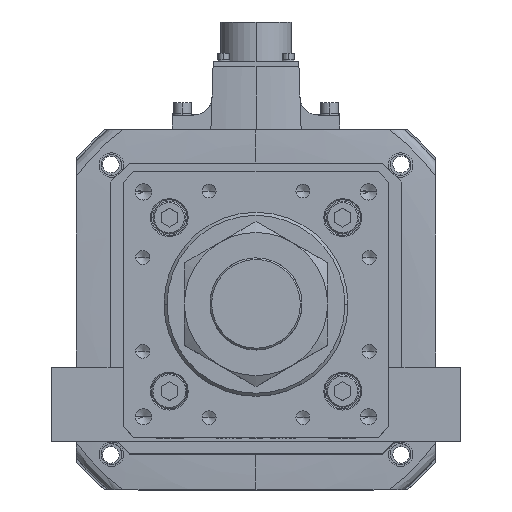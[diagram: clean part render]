
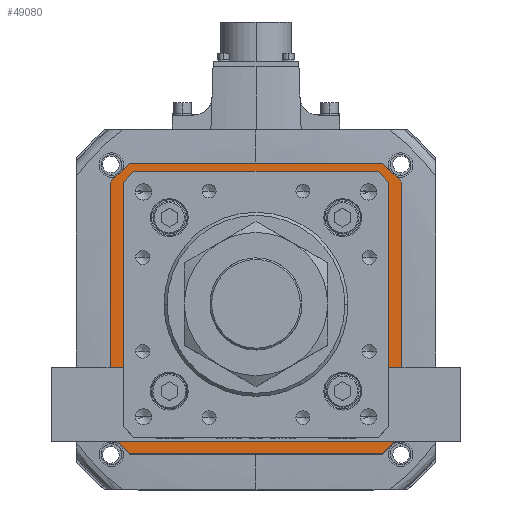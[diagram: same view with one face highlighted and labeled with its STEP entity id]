
A CAD part, top view. The second image highlights one B-rep face of the part: STEP entity #49080.
In plain terms, the highlighted planar face has unit normal (0, 0, 1).
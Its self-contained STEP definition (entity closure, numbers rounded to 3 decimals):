
#399 = ORIENTED_EDGE ( 'NONE', *, *, #52151, .F. ) ;
#441 = ORIENTED_EDGE ( 'NONE', *, *, #50509, .T. ) ;
#1129 = CARTESIAN_POINT ( 'NONE',  ( -58.793, 63., -142. ) ) ;
#1632 = DIRECTION ( 'NONE',  ( 0., 0., 1. ) ) ;
#2033 = VERTEX_POINT ( 'NONE', #29600 ) ;
#2128 = LINE ( 'NONE', #10579, #12241 ) ;
#2156 = LINE ( 'NONE', #35237, #21768 ) ;
#2441 = ORIENTED_EDGE ( 'NONE', *, *, #50747, .T. ) ;
#2738 = ORIENTED_EDGE ( 'NONE', *, *, #39676, .F. ) ;
#3299 = EDGE_CURVE ( 'NONE', #49667, #34025, #11095, .T. ) ;
#3880 = DIRECTION ( 'NONE',  ( 0., 1., 0. ) ) ;
#5049 = VERTEX_POINT ( 'NONE', #20598 ) ;
#5574 = AXIS2_PLACEMENT_3D ( 'NONE', #9741, #1632, #36352 ) ;
#5594 = CARTESIAN_POINT ( 'NONE',  ( -60.896, -60.896, -142. ) ) ;
#5709 = VERTEX_POINT ( 'NONE', #31580 ) ;
#5915 = VECTOR ( 'NONE', #53920, 1000. ) ;
#6136 = VECTOR ( 'NONE', #27582, 1000. ) ;
#6309 = CARTESIAN_POINT ( 'NONE',  ( 71., 62., -142. ) ) ;
#6768 = EDGE_CURVE ( 'NONE', #23154, #38619, #31103, .T. ) ;
#7073 = LINE ( 'NONE', #51189, #19955 ) ;
#7908 = ORIENTED_EDGE ( 'NONE', *, *, #41142, .F. ) ;
#7915 = LINE ( 'NONE', #19829, #5915 ) ;
#8337 = CARTESIAN_POINT ( 'NONE',  ( 71., 62., -142. ) ) ;
#9741 = CARTESIAN_POINT ( 'NONE',  ( 0., 0., -142. ) ) ;
#10463 = LINE ( 'NONE', #8337, #54385 ) ;
#10579 = CARTESIAN_POINT ( 'NONE',  ( -71., 62., -142. ) ) ;
#10681 = EDGE_LOOP ( 'NONE', ( #13502, #25065, #16151, #2441, #441, #50598, #50806, #35768 ) ) ;
#11095 = LINE ( 'NONE', #38594, #36066 ) ;
#11386 = CARTESIAN_POINT ( 'NONE',  ( 58.793, -63., -142. ) ) ;
#11911 = LINE ( 'NONE', #34791, #49077 ) ;
#12241 = VECTOR ( 'NONE', #43693, 1000. ) ;
#12267 = LINE ( 'NONE', #5594, #34570 ) ;
#12298 = VECTOR ( 'NONE', #42231, 1000. ) ;
#13502 = ORIENTED_EDGE ( 'NONE', *, *, #55547, .T. ) ;
#13518 = VECTOR ( 'NONE', #14341, 1000. ) ;
#13959 = CARTESIAN_POINT ( 'NONE',  ( 62., 71., -142. ) ) ;
#14341 = DIRECTION ( 'NONE',  ( 1., 0., 0. ) ) ;
#15019 = CARTESIAN_POINT ( 'NONE',  ( -71., -62., -142. ) ) ;
#15392 = DIRECTION ( 'NONE',  ( 0., -1., 0. ) ) ;
#16151 = ORIENTED_EDGE ( 'NONE', *, *, #37936, .T. ) ;
#16581 = EDGE_CURVE ( 'NONE', #40770, #2033, #2128, .T. ) ;
#17220 = CARTESIAN_POINT ( 'NONE',  ( -63., 58.793, -142. ) ) ;
#17630 = DIRECTION ( 'NONE',  ( 0., -1., 0. ) ) ;
#19829 = CARTESIAN_POINT ( 'NONE',  ( 0., -63., -142. ) ) ;
#19955 = VECTOR ( 'NONE', #25382, 1000. ) ;
#20350 = VECTOR ( 'NONE', #15392, 1000. ) ;
#20598 = CARTESIAN_POINT ( 'NONE',  ( -58.793, -63., -142. ) ) ;
#20993 = CARTESIAN_POINT ( 'NONE',  ( 71., -62., -142. ) ) ;
#21173 = DIRECTION ( 'NONE',  ( -1., 0., 0. ) ) ;
#21555 = CARTESIAN_POINT ( 'NONE',  ( 62., -71., -142. ) ) ;
#21569 = LINE ( 'NONE', #46140, #27635 ) ;
#21768 = VECTOR ( 'NONE', #3880, 1000. ) ;
#21834 = EDGE_CURVE ( 'NONE', #39666, #52263, #34577, .T. ) ;
#22433 = ORIENTED_EDGE ( 'NONE', *, *, #6768, .F. ) ;
#23154 = VERTEX_POINT ( 'NONE', #26455 ) ;
#23561 = VECTOR ( 'NONE', #33801, 1000. ) ;
#24689 = ORIENTED_EDGE ( 'NONE', *, *, #35608, .F. ) ;
#25020 = CARTESIAN_POINT ( 'NONE',  ( 58.793, 63., -142. ) ) ;
#25065 = ORIENTED_EDGE ( 'NONE', *, *, #3299, .T. ) ;
#25382 = DIRECTION ( 'NONE',  ( -0.707, -0.707, 0. ) ) ;
#26455 = CARTESIAN_POINT ( 'NONE',  ( 71., 62., -142. ) ) ;
#26969 = LINE ( 'NONE', #37421, #23561 ) ;
#27582 = DIRECTION ( 'NONE',  ( 0.707, 0.707, 0. ) ) ;
#27635 = VECTOR ( 'NONE', #54034, 1000. ) ;
#28527 = EDGE_CURVE ( 'NONE', #39664, #50428, #21569, .T. ) ;
#28593 = CARTESIAN_POINT ( 'NONE',  ( 62., 71., -142. ) ) ;
#29600 = CARTESIAN_POINT ( 'NONE',  ( -71., 62., -142. ) ) ;
#31103 = LINE ( 'NONE', #6309, #20350 ) ;
#31580 = CARTESIAN_POINT ( 'NONE',  ( -62., -71., -142. ) ) ;
#32240 = VERTEX_POINT ( 'NONE', #28593 ) ;
#32818 = CARTESIAN_POINT ( 'NONE',  ( 63., 58.793, -142. ) ) ;
#33072 = EDGE_CURVE ( 'NONE', #2033, #43452, #46745, .T. ) ;
#33727 = EDGE_CURVE ( 'NONE', #52263, #39664, #41965, .T. ) ;
#33801 = DIRECTION ( 'NONE',  ( -0.707, 0.707, 0. ) ) ;
#33936 = CARTESIAN_POINT ( 'NONE',  ( -62., 71., -142. ) ) ;
#34025 = VERTEX_POINT ( 'NONE', #11386 ) ;
#34570 = VECTOR ( 'NONE', #35417, 1000. ) ;
#34577 = LINE ( 'NONE', #52849, #6136 ) ;
#34791 = CARTESIAN_POINT ( 'NONE',  ( 63., 0., -142. ) ) ;
#35237 = CARTESIAN_POINT ( 'NONE',  ( -63., 0., -142. ) ) ;
#35417 = DIRECTION ( 'NONE',  ( -0.707, 0.707, 0. ) ) ;
#35608 = EDGE_CURVE ( 'NONE', #42896, #5709, #41276, .T. ) ;
#35768 = ORIENTED_EDGE ( 'NONE', *, *, #28527, .T. ) ;
#36066 = VECTOR ( 'NONE', #55722, 1000. ) ;
#36352 = DIRECTION ( 'NONE',  ( 1., 0., 0. ) ) ;
#37421 = CARTESIAN_POINT ( 'NONE',  ( -62., -71., -142. ) ) ;
#37516 = EDGE_CURVE ( 'NONE', #5709, #40770, #26969, .T. ) ;
#37936 = EDGE_CURVE ( 'NONE', #34025, #5049, #7915, .T. ) ;
#38594 = CARTESIAN_POINT ( 'NONE',  ( 60.896, -60.896, -142. ) ) ;
#38619 = VERTEX_POINT ( 'NONE', #20993 ) ;
#39256 = VECTOR ( 'NONE', #40265, 1000. ) ;
#39447 = ORIENTED_EDGE ( 'NONE', *, *, #16581, .F. ) ;
#39664 = VERTEX_POINT ( 'NONE', #25020 ) ;
#39666 = VERTEX_POINT ( 'NONE', #17220 ) ;
#39676 = EDGE_CURVE ( 'NONE', #32240, #23154, #10463, .T. ) ;
#40265 = DIRECTION ( 'NONE',  ( 1., 0., 0. ) ) ;
#40770 = VERTEX_POINT ( 'NONE', #15019 ) ;
#41142 = EDGE_CURVE ( 'NONE', #38619, #42896, #7073, .T. ) ;
#41276 = LINE ( 'NONE', #47168, #45360 ) ;
#41965 = LINE ( 'NONE', #44054, #39256 ) ;
#42231 = DIRECTION ( 'NONE',  ( 0.707, 0.707, 0. ) ) ;
#42896 = VERTEX_POINT ( 'NONE', #21555 ) ;
#43452 = VERTEX_POINT ( 'NONE', #46588 ) ;
#43454 = DIRECTION ( 'NONE',  ( 0.707, -0.707, 0. ) ) ;
#43693 = DIRECTION ( 'NONE',  ( 0., 1., 0. ) ) ;
#44054 = CARTESIAN_POINT ( 'NONE',  ( 0., 63., -142. ) ) ;
#44286 = PLANE ( 'NONE',  #5574 ) ;
#44654 = VERTEX_POINT ( 'NONE', #51797 ) ;
#45360 = VECTOR ( 'NONE', #21173, 1000. ) ;
#46140 = CARTESIAN_POINT ( 'NONE',  ( 60.896, 60.896, -142. ) ) ;
#46588 = CARTESIAN_POINT ( 'NONE',  ( -62., 71., -142. ) ) ;
#46745 = LINE ( 'NONE', #33936, #12298 ) ;
#47168 = CARTESIAN_POINT ( 'NONE',  ( 62., -71., -142. ) ) ;
#47968 = LINE ( 'NONE', #13959, #13518 ) ;
#48710 = EDGE_LOOP ( 'NONE', ( #399, #50285, #39447, #49384, #24689, #7908, #22433, #2738 ) ) ;
#49077 = VECTOR ( 'NONE', #17630, 1000. ) ;
#49080 = ADVANCED_FACE ( 'NONE', ( #50786, #49446 ), #44286, .T. ) ;
#49296 = CARTESIAN_POINT ( 'NONE',  ( 63., -58.793, -142. ) ) ;
#49384 = ORIENTED_EDGE ( 'NONE', *, *, #37516, .F. ) ;
#49446 = FACE_OUTER_BOUND ( 'NONE', #48710, .T. ) ;
#49667 = VERTEX_POINT ( 'NONE', #49296 ) ;
#50285 = ORIENTED_EDGE ( 'NONE', *, *, #33072, .F. ) ;
#50428 = VERTEX_POINT ( 'NONE', #32818 ) ;
#50509 = EDGE_CURVE ( 'NONE', #44654, #39666, #2156, .T. ) ;
#50598 = ORIENTED_EDGE ( 'NONE', *, *, #21834, .T. ) ;
#50747 = EDGE_CURVE ( 'NONE', #5049, #44654, #12267, .T. ) ;
#50786 = FACE_BOUND ( 'NONE', #10681, .T. ) ;
#50806 = ORIENTED_EDGE ( 'NONE', *, *, #33727, .T. ) ;
#51189 = CARTESIAN_POINT ( 'NONE',  ( 71., -62., -142. ) ) ;
#51797 = CARTESIAN_POINT ( 'NONE',  ( -63., -58.793, -142. ) ) ;
#52151 = EDGE_CURVE ( 'NONE', #43452, #32240, #47968, .T. ) ;
#52263 = VERTEX_POINT ( 'NONE', #1129 ) ;
#52849 = CARTESIAN_POINT ( 'NONE',  ( -60.896, 60.896, -142. ) ) ;
#53920 = DIRECTION ( 'NONE',  ( -1., 0., 0. ) ) ;
#54034 = DIRECTION ( 'NONE',  ( 0.707, -0.707, 0. ) ) ;
#54385 = VECTOR ( 'NONE', #43454, 1000. ) ;
#55547 = EDGE_CURVE ( 'NONE', #50428, #49667, #11911, .T. ) ;
#55722 = DIRECTION ( 'NONE',  ( -0.707, -0.707, 0. ) ) ;
